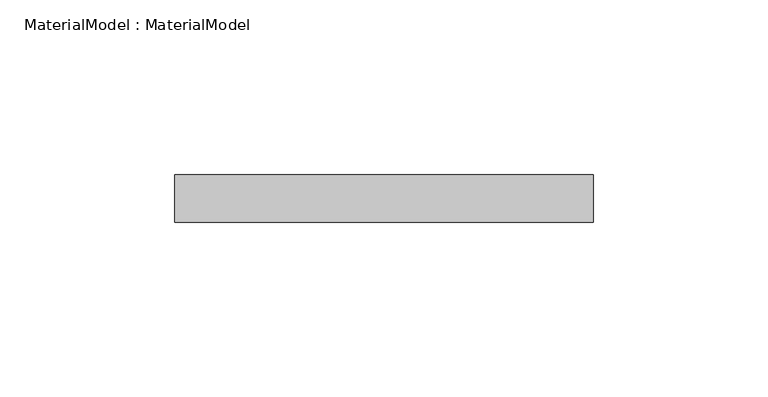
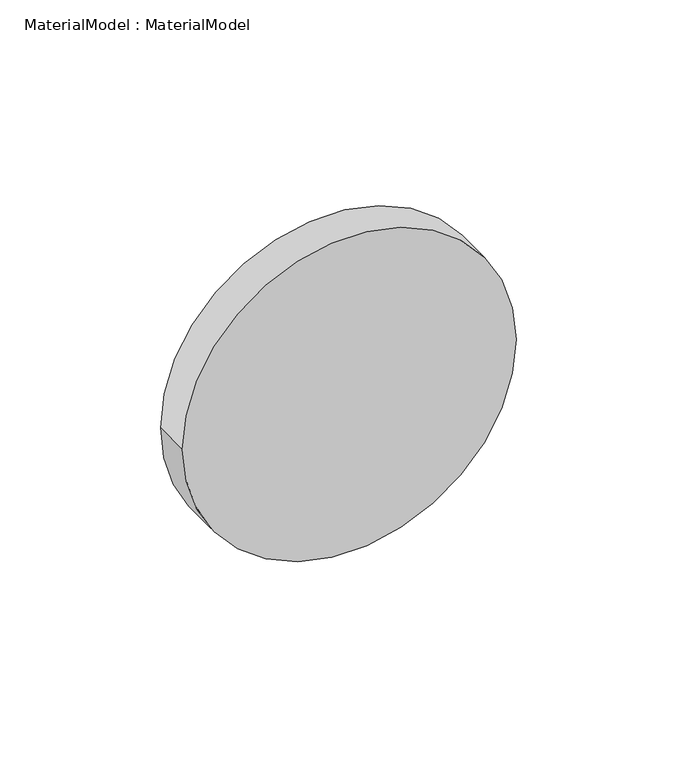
"""IFC4 building model written with IfcOpenShell, lengths in millimetres: proxy geometry, MaterialModel : MaterialModel."""

from ifc_helpers import new_model, si_unit, point, frame, frame_2d, origin, place, context, project, spatial, circle_curve, trimmed, segment, composite_curve, outline, extrude, source, transform, mapped, element, save


def materialmodel_materialmodel_43b225cb(model_context):
    return source(origin(), model_context, "Body", "SweptSolid", [
        extrude(outline(composite_curve([segment(trimmed(circle_curve(frame_2d((10.0, 0.0)), 60.0), [point((10.0, -60.0))], [point((10.0, 60.0))], False, "CARTESIAN"), True, "CONTINUOUS"), segment(trimmed(circle_curve(frame_2d((10.0, 0.0)), 60.0), [point((10.0, 60.0))], [point((10.0, -60.0))], False, "CARTESIAN"), True, "CONTINUOUS")], self_intersect=False)), frame((0.0, -3.6429115, 0.0), z_axis=(0.0, 1.0, 0.0), x_axis=(0.0, 0.0, 1.0)), (0.0, 0.0, 1.0), 13.6429115),
    ])


if __name__ == "__main__":
    model = new_model("IFC4")
    model_context = context("Model", 3, world=origin())
    ifc_project = project(units=[si_unit("LENGTHUNIT", "METRE", prefix="MILLI")], contexts=[model_context])
    site = spatial("IfcSite", under=ifc_project)
    building = spatial("IfcBuilding", under=site)
    placement = place(None, origin())
    materialmodel_materialmodel_shape = materialmodel_materialmodel_43b225cb(model_context)
    element("IfcBuildingElementProxy", 1, Name="MaterialModel : MaterialModel", ObjectType="MaterialModel : MaterialModel", at=placement, inside=building, context=model_context, shape_type="MappedRepresentation", body=[
        mapped(materialmodel_materialmodel_shape, transform((0.0, 0.0, 0.0), x_axis=(1.0, 0.0, 0.0), y_axis=(0.0, 1.0, 0.0), z_axis=(0.0, 0.0, 1.0))),
    ])
    save(model, "model.ifc")
